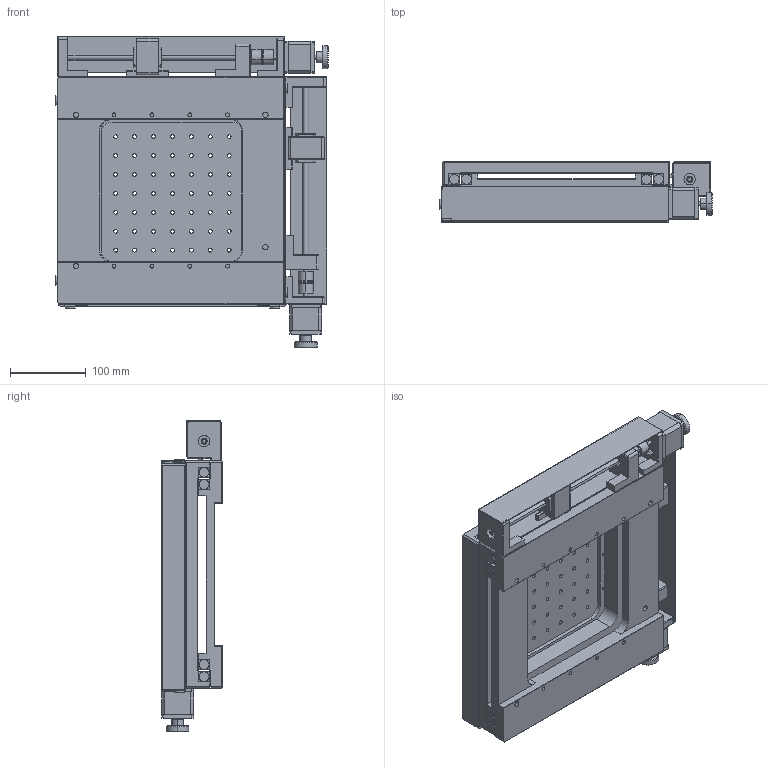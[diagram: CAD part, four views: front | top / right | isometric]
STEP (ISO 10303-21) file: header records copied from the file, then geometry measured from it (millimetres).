
FILE_DESCRIPTION (( 'STEP AP203' ), '1' );
FILE_NAME ('ZT200-100x100蚾饜极.STEP', '2019-04-02T03:49:52', ( 'SALES' ), ( 'Microsoft' ), 'SwSTEP 2.0', 'SolidWorks 2016', '' );
FILE_SCHEMA (( 'CONFIG_CONTROL_DESIGN' ));
Length unit declared in the file: millimetre
Products named in the file (1): ZT200-100x100蚾饜极
Bounding box: 360 x 80 x 412 mm (x, y, z)
Surface area: 850474.5 mm2 (no closed solid volume)
Topology: 0 solids, 51 shells, 849 faces, 2511 edges, 1698 vertices
Faces by surface type: plane 433, cylinder 344, cone 52, torus 18, sphere 2
Entity records: 28869 total; most frequent: CARTESIAN_POINT 5309, DIRECTION 5120, ORIENTED_EDGE 4372, EDGE_CURVE 2509, AXIS2_PLACEMENT_3D 1789, VERTEX_POINT 1698, VECTOR 1542, LINE 1542
